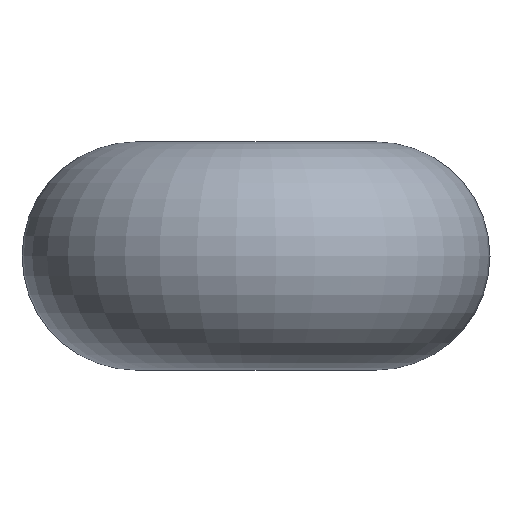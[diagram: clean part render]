
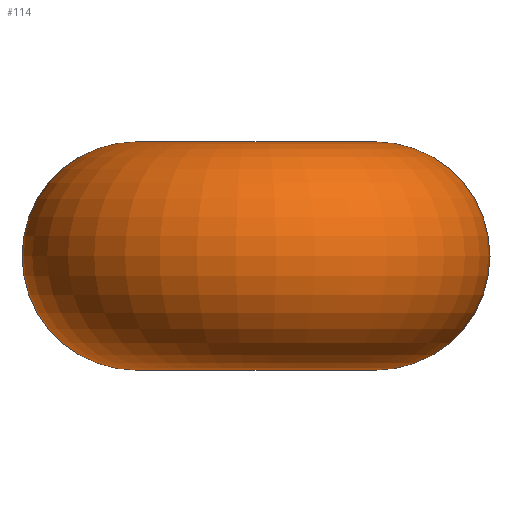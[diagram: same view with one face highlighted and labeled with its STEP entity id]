
A CAD part, left-side view. The second image highlights one B-rep face of the part: STEP entity #114.
In plain terms, the highlighted toroidal (fillet/blend) face has major radius 5 mm and minor radius 4.75 mm.
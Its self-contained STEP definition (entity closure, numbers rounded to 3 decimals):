
#1 = CARTESIAN_POINT ( 'NONE',  ( 3.876, -3.159, 4.75 ) ) ;
#3 = AXIS2_PLACEMENT_3D ( 'NONE', #8, #7, #6 ) ;
#4 = CIRCLE ( 'NONE', #3, 4.75 ) ;
#6 = DIRECTION ( 'NONE',  ( 0., 0., -1. ) ) ;
#7 = DIRECTION ( 'NONE',  ( -0.632, -0.775, 0. ) ) ;
#8 = CARTESIAN_POINT ( 'NONE',  ( 3.876, -3.159, 0. ) ) ;
#9 = CARTESIAN_POINT ( 'NONE',  ( 3.876, 3.159, -4.75 ) ) ;
#10 = CARTESIAN_POINT ( 'NONE',  ( 7.557, 6.16, 0. ) ) ;
#42 = EDGE_CURVE ( 'NONE', #103, #208, #383, .T. ) ;
#103 = VERTEX_POINT ( 'NONE', #282 ) ;
#108 = VERTEX_POINT ( 'NONE', #251 ) ;
#110 = EDGE_CURVE ( 'NONE', #108, #206, #250, .T. ) ;
#113 = EDGE_CURVE ( 'NONE', #200, #103, #245, .T. ) ;
#114 = ADVANCED_FACE ( 'NONE', ( #240 ), #239, .T. ) ;
#115 = EDGE_LOOP ( 'NONE', ( #116, #144, #145, #146, #147, #148 ) ) ;
#116 = ORIENTED_EDGE ( 'NONE', *, *, #199, .F. ) ;
#144 = ORIENTED_EDGE ( 'NONE', *, *, #113, .T. ) ;
#145 = ORIENTED_EDGE ( 'NONE', *, *, #42, .T. ) ;
#146 = ORIENTED_EDGE ( 'NONE', *, *, #207, .T. ) ;
#147 = ORIENTED_EDGE ( 'NONE', *, *, #110, .F. ) ;
#148 = ORIENTED_EDGE ( 'NONE', *, *, #149, .F. ) ;
#149 = EDGE_CURVE ( 'NONE', #201, #108, #358, .T. ) ;
#199 = EDGE_CURVE ( 'NONE', #200, #201, #503, .T. ) ;
#200 = VERTEX_POINT ( 'NONE', #9 ) ;
#201 = VERTEX_POINT ( 'NONE', #10 ) ;
#206 = VERTEX_POINT ( 'NONE', #1 ) ;
#207 = EDGE_CURVE ( 'NONE', #208, #206, #4, .T. ) ;
#208 = VERTEX_POINT ( 'NONE', #404 ) ;
#231 = DIRECTION ( 'NONE',  ( -0.632, -0.775, 0. ) ) ;
#232 = CARTESIAN_POINT ( 'NONE',  ( 3.876, -3.159, 0. ) ) ;
#233 = AXIS2_PLACEMENT_3D ( 'NONE', #232, #231, #339 ) ;
#235 = DIRECTION ( 'NONE',  ( 1., 0., 0. ) ) ;
#236 = DIRECTION ( 'NONE',  ( 0., 0., 1. ) ) ;
#237 = AXIS2_PLACEMENT_3D ( 'NONE', #238, #236, #235 ) ;
#238 = CARTESIAN_POINT ( 'NONE',  ( 0., 0., 0. ) ) ;
#239 = TOROIDAL_SURFACE ( 'NONE', #237, 5., 4.75 ) ;
#240 = FACE_OUTER_BOUND ( 'NONE', #115, .T. ) ;
#241 = DIRECTION ( 'NONE',  ( 1., 0., 0. ) ) ;
#242 = DIRECTION ( 'NONE',  ( 0., 0., 1. ) ) ;
#243 = CARTESIAN_POINT ( 'NONE',  ( 0., 0., -4.75 ) ) ;
#244 = AXIS2_PLACEMENT_3D ( 'NONE', #243, #242, #241 ) ;
#245 = CIRCLE ( 'NONE', #244, 5. ) ;
#246 = DIRECTION ( 'NONE',  ( 1., 0., 0. ) ) ;
#247 = DIRECTION ( 'NONE',  ( 0., 0., 1. ) ) ;
#248 = CARTESIAN_POINT ( 'NONE',  ( 0., 0., 4.75 ) ) ;
#249 = AXIS2_PLACEMENT_3D ( 'NONE', #248, #247, #246 ) ;
#250 = CIRCLE ( 'NONE', #249, 5. ) ;
#251 = CARTESIAN_POINT ( 'NONE',  ( 3.876, 3.159, 4.75 ) ) ;
#282 = CARTESIAN_POINT ( 'NONE',  ( 3.876, -3.159, -4.75 ) ) ;
#339 = DIRECTION ( 'NONE',  ( 0., 0., -1. ) ) ;
#354 = DIRECTION ( 'NONE',  ( 0., 0., -1. ) ) ;
#355 = DIRECTION ( 'NONE',  ( 0.632, -0.775, 0. ) ) ;
#356 = CARTESIAN_POINT ( 'NONE',  ( 3.876, 3.159, 0. ) ) ;
#357 = AXIS2_PLACEMENT_3D ( 'NONE', #356, #355, #354 ) ;
#358 = CIRCLE ( 'NONE', #357, 4.75 ) ;
#383 = CIRCLE ( 'NONE', #233, 4.75 ) ;
#404 = CARTESIAN_POINT ( 'NONE',  ( 7.557, -6.16, 0. ) ) ;
#501 = DIRECTION ( 'NONE',  ( 0.632, -0.775, 0. ) ) ;
#502 = AXIS2_PLACEMENT_3D ( 'NONE', #506, #501, #509 ) ;
#503 = CIRCLE ( 'NONE', #502, 4.75 ) ;
#506 = CARTESIAN_POINT ( 'NONE',  ( 3.876, 3.159, 0. ) ) ;
#509 = DIRECTION ( 'NONE',  ( 0., 0., -1. ) ) ;
